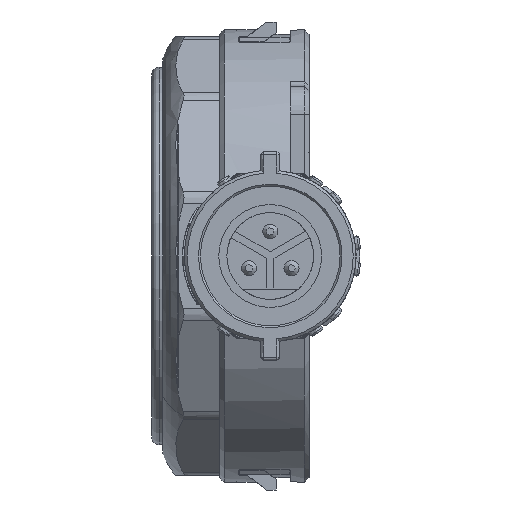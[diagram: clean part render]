
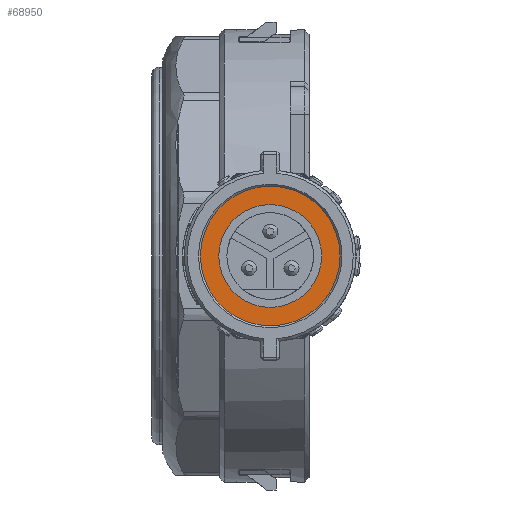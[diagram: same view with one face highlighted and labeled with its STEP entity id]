
A CAD part, left-side view. The second image highlights one B-rep face of the part: STEP entity #68950.
In plain terms, the highlighted planar face has unit normal (-1, 0, 0).
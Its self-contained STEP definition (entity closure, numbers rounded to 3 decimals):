
#754 = DIRECTION ( 'NONE',  ( 0., 0., -1. ) ) ;
#1155 = ORIENTED_EDGE ( 'NONE', *, *, #38251, .F. ) ;
#3107 = DIRECTION ( 'NONE',  ( 0., -1., 0. ) ) ;
#4862 = DIRECTION ( 'NONE',  ( -1., 0., 0. ) ) ;
#5021 = CARTESIAN_POINT ( 'NONE',  ( 6.89, 0., 0. ) ) ;
#5640 = CARTESIAN_POINT ( 'NONE',  ( 6.89, 0., -5.45 ) ) ;
#6408 = CARTESIAN_POINT ( 'NONE',  ( 6.89, -7.4, 0. ) ) ;
#8241 = FACE_OUTER_BOUND ( 'NONE', #61716, .T. ) ;
#10905 = DIRECTION ( 'NONE',  ( 1., 0., 0. ) ) ;
#15803 = CIRCLE ( 'NONE', #56893, 5.45 ) ;
#16586 = DIRECTION ( 'NONE',  ( -1., 0., 0. ) ) ;
#19330 = AXIS2_PLACEMENT_3D ( 'NONE', #5021, #10905, #39215 ) ;
#25125 = CARTESIAN_POINT ( 'NONE',  ( 6.89, 0., 0. ) ) ;
#27305 = DIRECTION ( 'NONE',  ( 0., 0., 1. ) ) ;
#27528 = CIRCLE ( 'NONE', #58083, 5.45 ) ;
#32393 = EDGE_CURVE ( 'NONE', #56798, #56798, #38091, .T. ) ;
#32651 = EDGE_CURVE ( 'NONE', #68816, #41010, #15803, .T. ) ;
#34946 = CARTESIAN_POINT ( 'NONE',  ( 6.89, 0., 0. ) ) ;
#37622 = PLANE ( 'NONE',  #71365 ) ;
#38091 = CIRCLE ( 'NONE', #19330, 7.4 ) ;
#38251 = EDGE_CURVE ( 'NONE', #41010, #68816, #27528, .T. ) ;
#39215 = DIRECTION ( 'NONE',  ( 0., -1., 0. ) ) ;
#41010 = VERTEX_POINT ( 'NONE', #5640 ) ;
#46815 = ORIENTED_EDGE ( 'NONE', *, *, #32393, .F. ) ;
#53486 = DIRECTION ( 'NONE',  ( -1., 0., 0. ) ) ;
#55296 = CARTESIAN_POINT ( 'NONE',  ( 6.89, 0., 0. ) ) ;
#56798 = VERTEX_POINT ( 'NONE', #6408 ) ;
#56893 = AXIS2_PLACEMENT_3D ( 'NONE', #55296, #4862, #27305 ) ;
#58083 = AXIS2_PLACEMENT_3D ( 'NONE', #34946, #16586, #754 ) ;
#59553 = EDGE_LOOP ( 'NONE', ( #1155, #71703 ) ) ;
#61716 = EDGE_LOOP ( 'NONE', ( #46815 ) ) ;
#68816 = VERTEX_POINT ( 'NONE', #72547 ) ;
#68950 = ADVANCED_FACE ( 'NONE', ( #8241, #69958 ), #37622, .T. ) ;
#69958 = FACE_BOUND ( 'NONE', #59553, .T. ) ;
#71365 = AXIS2_PLACEMENT_3D ( 'NONE', #25125, #53486, #3107 ) ;
#71703 = ORIENTED_EDGE ( 'NONE', *, *, #32651, .F. ) ;
#72547 = CARTESIAN_POINT ( 'NONE',  ( 6.89, 0., 5.45 ) ) ;
